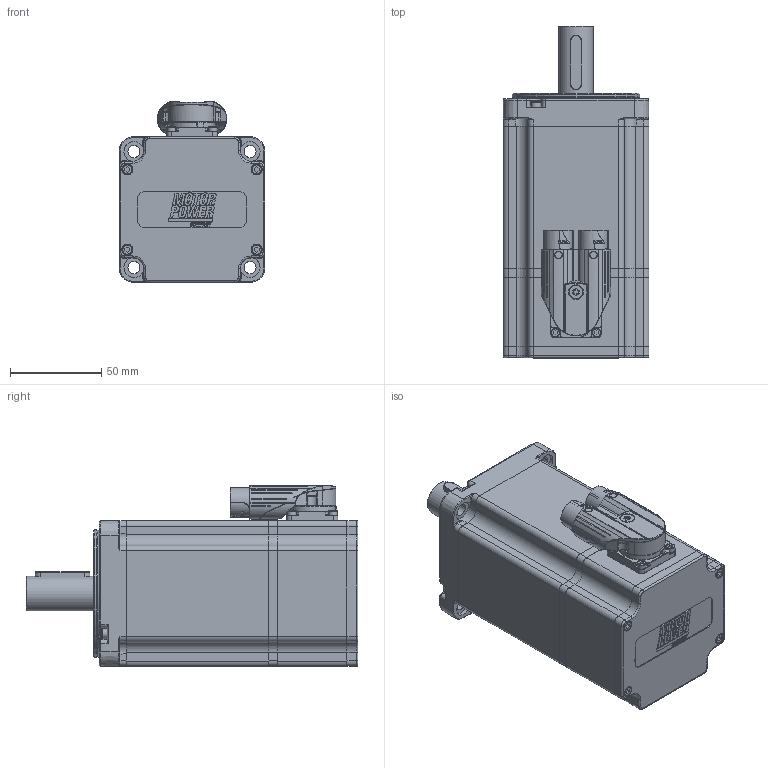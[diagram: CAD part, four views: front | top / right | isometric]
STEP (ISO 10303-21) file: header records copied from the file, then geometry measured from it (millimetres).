
FILE_DESCRIPTION(/* description */ ('Unknown'),/* implementation_level */ '2;1');
FILE_NAME(/* name */ 'TC4-80.3B.XX.X.3.M1.0.1.G11.33.80 Q0D211',/* time_stamp */ '2026-03-04T11:55:11+01:00',/* author */ ('Unknown'),/* organization */ ('Unknown'),/* preprocessor_version */ 'ST-DEVELOPER v19.4',/* originating_system */ 'Solid Edge',/* authorisation */ 'Unknown');
FILE_SCHEMA (('AUTOMOTIVE_DESIGN {1 0 10303 214 3 1 1}'));
Products named in the file (13): Q0D211 3B M1 VUOTO; 003151003147; 005117001560; 003107003286; 005911000192; 005113000500; 003155002201; 003103040148; 003003200455; 005911000185; 005119001500; 005911000202; 003251040719
Assembly tree (21 placements, depth 2):
  Q0D211 3B M1 VUOTO
    003151003147
    005117001560
    003107003286
    005911000192  x4
    005113000500
    003155002201
    003103040148
    003003200455
    005911000185  x4
    005119001500
    005911000202  x4
    003251040719
Bounding box: 80 x 182 x 99.25 mm (x, y, z)
Volume: 356062.3 mm3; surface area: 163007.7 mm2
Topology: 23 solids, 23 shells, 2780 faces, 6771 edges, 4209 vertices
Faces by surface type: plane 1059, cylinder 736, bspline 503, torus 287, cone 157, sphere 38
Full cylindrical faces by diameter (mm): 1 x21, 1.175 x12, 1.5 x1, 1.8 x5, 2 x1, 2.013 x4, 2.05 x3, 2.459 x20, 2.5 x5, 3 x8, 3.2 x5, 3.5 x18, 4 x2, 4.7 x4, 4.917 x1, 5.5 x8, 6 x9, 6.4 x1, 6.6 x4, 7 x4, 7.5 x1, 8 x1, 10 x2, 11 x4, 11.75 x1, 15 x2, 16.2 x2, 16.9 x1, 16.95 x1, 18.8 x1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
Entity records: 116223 total; most frequent: CARTESIAN_POINT 41271, ORIENTED_EDGE 12014, DIRECTION 10780, EDGE_CURVE 6007, AXIS2_PLACEMENT_3D 4163, VERTEX_POINT 3949, FACE_BOUND 3284, EDGE_LOOP 3266
